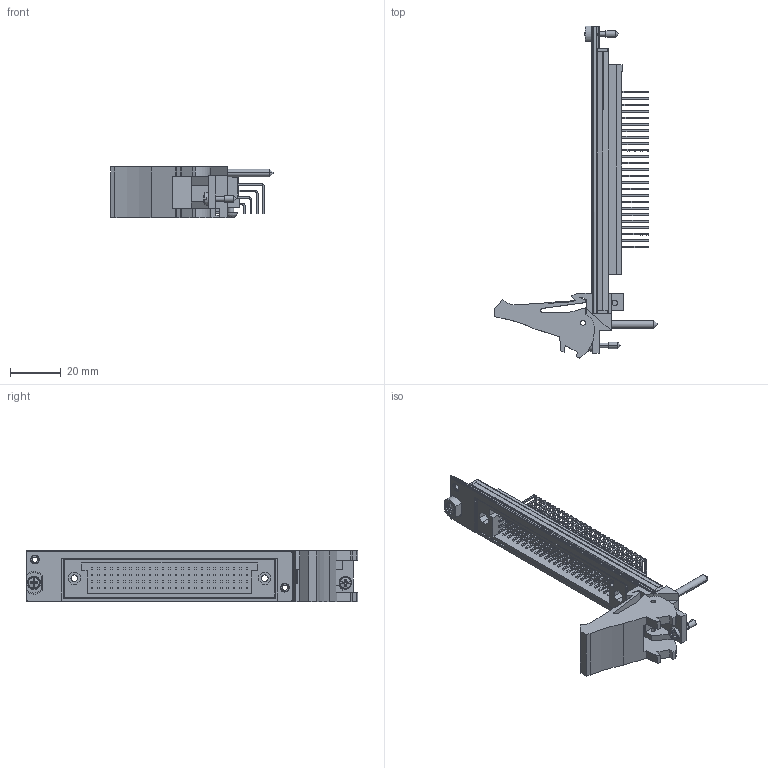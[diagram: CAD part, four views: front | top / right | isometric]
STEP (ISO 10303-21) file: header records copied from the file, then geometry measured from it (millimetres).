
FILE_DESCRIPTION((''),'2;1');
FILE_NAME('CU_PXI-2527','2009-08-31T',('jjorden'),(''),'PRO/ENGINEER BY PARAMETRIC TECHNOLOGY CORPORATION, 2006080','PRO/ENGINEER BY PARAMETRIC TECHNOLOGY CORPORATION, 2006080','');
FILE_SCHEMA(('CONFIG_CONTROL_DESIGN'));
Length unit declared in the file: inch
Products named in the file (1): CU_PXI-2527
Bounding box: 63.73 x 130.5 x 20.32 mm (x, y, z)
Volume: 20546.4 mm3; surface area: 24216.1 mm2
Topology: 3 solids, 3 shells, 1834 faces, 4732 edges, 3121 vertices
Faces by surface type: plane 1489, cylinder 307, cone 18, sphere 8, torus 6, bspline 6
Entity records: 55679 total; most frequent: CARTESIAN_POINT 10204, ORIENTED_EDGE 9448, DIRECTION 9037, EDGE_CURVE 4724, VECTOR 3999, LINE 3999, VERTEX_POINT 3140, AXIS2_PLACEMENT_3D 2519
